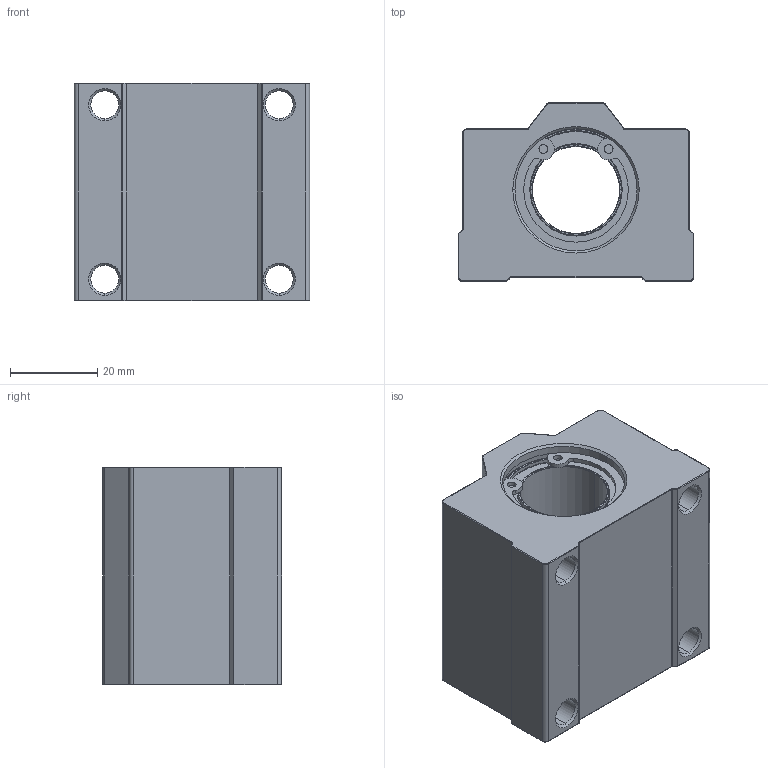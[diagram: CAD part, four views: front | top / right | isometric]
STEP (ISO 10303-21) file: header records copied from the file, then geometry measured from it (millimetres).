
FILE_DESCRIPTION (( 'STEP AP214' ), '1' );
FILE_NAME ('SC20UU.STEP', '2020-09-24T12:03:15', ( '' ), ( '' ), 'SwSTEP 2.0', 'SolidWorks 2018', '' );
FILE_SCHEMA (( 'AUTOMOTIVE_DESIGN' ));
Length unit declared in the file: millimetre
Products named in the file (4): SC20UU-03; SC20UU-02; SC20UU-01; SC20UU
Assembly tree (4 placements, depth 2):
  SC20UU
    SC20UU-01
    SC20UU-02
    SC20UU-03  x2
Bounding box: 54 x 41.1 x 50 mm (x, y, z)
Volume: 73554.2 mm3; surface area: 27217.9 mm2
Topology: 4 solids, 4 shells, 372 faces, 911 edges, 566 vertices
Faces by surface type: plane 150, cylinder 108, torus 48, bspline 38, cone 20, sphere 8
Entity records: 14256 total; most frequent: CARTESIAN_POINT 4086, ORIENTED_EDGE 1724, DIRECTION 1712, EDGE_CURVE 862, AXIS2_PLACEMENT_3D 602, VERTEX_POINT 536, LINE 508, VECTOR 508
